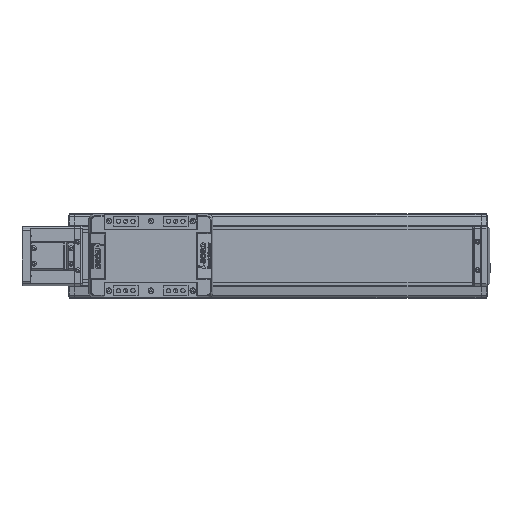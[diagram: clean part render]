
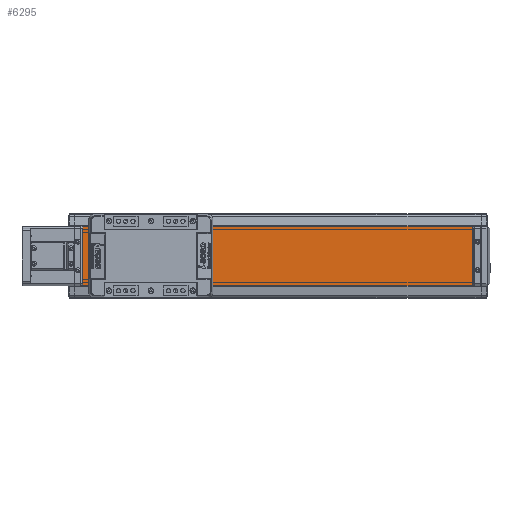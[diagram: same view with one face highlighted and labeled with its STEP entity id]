
A CAD part, top view. The second image highlights one B-rep face of the part: STEP entity #6295.
In plain terms, the highlighted planar face has unit normal (0, 0, 1).
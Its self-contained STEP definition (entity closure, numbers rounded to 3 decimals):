
#6295=ADVANCED_FACE('',(#13241),#13242,.T.);
#13241=FACE_OUTER_BOUND('',#21512,.T.);
#13242=PLANE('',#21513);
#21512=EDGE_LOOP('',(#39723,#39724,#39725,#39726));
#21513=AXIS2_PLACEMENT_3D('',#39727,#39728,#39729);
#39723=ORIENTED_EDGE('',*,*,#46557,.T.);
#39724=ORIENTED_EDGE('',*,*,#48601,.F.);
#39725=ORIENTED_EDGE('',*,*,#50305,.T.);
#39726=ORIENTED_EDGE('',*,*,#47785,.T.);
#39727=CARTESIAN_POINT('',(-580.,0.,20.15));
#39728=DIRECTION('',(0.,0.,1.0));
#39729=DIRECTION('',(0.,-1.0,0.));
#46557=EDGE_CURVE('',#55838,#55840,#55842,.T.);
#47785=EDGE_CURVE('',#57963,#55838,#57964,.T.);
#48601=EDGE_CURVE('',#59349,#55840,#59351,.T.);
#50305=EDGE_CURVE('',#59349,#57963,#62000,.T.);
#55838=VERTEX_POINT('',#69145);
#55840=VERTEX_POINT('',#69148);
#55842=LINE('',#69151,#69152);
#57963=VERTEX_POINT('',#72221);
#57964=LINE('',#72222,#72223);
#59349=VERTEX_POINT('',#74080);
#59351=LINE('',#74083,#74084);
#62000=LINE('',#77867,#77868);
#69145=CARTESIAN_POINT('',(-100.,-35.,20.15));
#69148=CARTESIAN_POINT('',(-100.,35.,20.15));
#69151=CARTESIAN_POINT('',(-100.,35.,20.15));
#69152=VECTOR('',#86283,10.0);
#72221=CARTESIAN_POINT('',(-580.,-35.,20.15));
#72222=CARTESIAN_POINT('',(-580.,-35.,20.15));
#72223=VECTOR('',#88024,10.0);
#74080=CARTESIAN_POINT('',(-580.,35.,20.15));
#74083=CARTESIAN_POINT('',(-580.,35.,20.15));
#74084=VECTOR('',#89221,10.0);
#77867=CARTESIAN_POINT('',(-580.,35.,20.15));
#77868=VECTOR('',#91518,10.0);
#86283=DIRECTION('',(0.,1.0,0.));
#88024=DIRECTION('',(1.0,0.,0.));
#89221=DIRECTION('',(1.0,0.,0.));
#91518=DIRECTION('',(0.,-1.0,0.));
